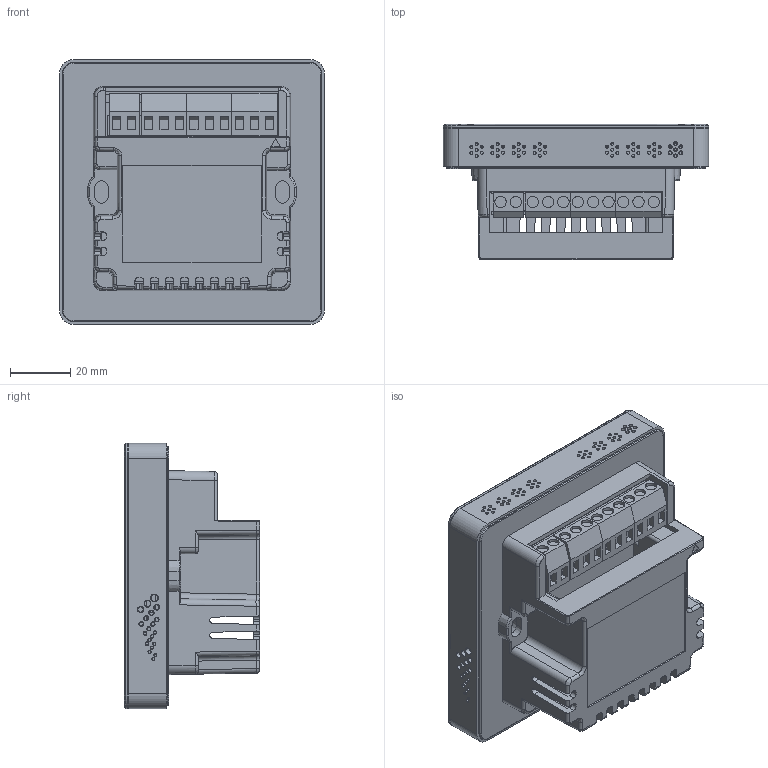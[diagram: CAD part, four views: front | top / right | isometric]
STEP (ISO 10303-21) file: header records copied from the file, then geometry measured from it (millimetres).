
FILE_DESCRIPTION((''),'2;1');
FILE_NAME('040-480480-181226_ASM','2021-03-12T',('Administrator'),(''),'PRO/ENGINEER BY PARAMETRIC TECHNOLOGY CORPORATION, 2008380','PRO/ENGINEER BY PARAMETRIC TECHNOLOGY CORPORATION, 2008380','');
FILE_SCHEMA(('CONFIG_CONTROL_DESIGN'));
Length unit declared in the file: millimetre
Products named in the file (18): 10PIN-CZ-A; 10PIN-CA-B; 4_C-COVER-181226; 4_D-COVER-181226; CONNECTOR-3PIN; CONNECTOR-2PIN; CTP-480480-181030; LCD-480480-181226; 4-KEY-181226; 48480BB86R4AV1; 4_B-COVER-190530; DT5002_C40480V2-A-190719; DT5002_C40480V2-B-190719; DT5002_C40480XKV199-190723; VCNL4200; DT5002-C40480V2-190719_ASM; 4_A-COVER-480480-EU-191015; 040-480480-181226_ASM
Assembly tree (19 placements, depth 3):
  040-480480-181226_ASM
    10PIN-CZ-A
    10PIN-CA-B
    4_C-COVER-181226
    4_D-COVER-181226
    CONNECTOR-3PIN  x3
    CONNECTOR-2PIN
    CTP-480480-181030
    LCD-480480-181226
    4-KEY-181226
    48480BB86R4AV1
    4_B-COVER-190530
    DT5002-C40480V2-190719_ASM
      DT5002_C40480V2-A-190719
      DT5002_C40480V2-B-190719
      DT5002_C40480XKV199-190723
      VCNL4200
    4_A-COVER-480480-EU-191015
Bounding box: 88 x 44.83 x 88 mm (x, y, z)
Volume: 103923.1 mm3; surface area: 136279.8 mm2
Topology: 25 solids, 25 shells, 2499 faces, 23251 edges, 31187 vertices
Faces by surface type: plane 1586, cylinder 528, cone 274, bspline 59, torus 52
Entity records: 238900 total; most frequent: CARTESIAN_POINT 37460, DIRECTION 34784, PRESENTATION_STYLE_ASSIGNMENT 22303, STYLED_ITEM 22160, CURVE_STYLE 21930, TRIMMED_CURVE 16505, VECTOR 14718, LINE 14718
